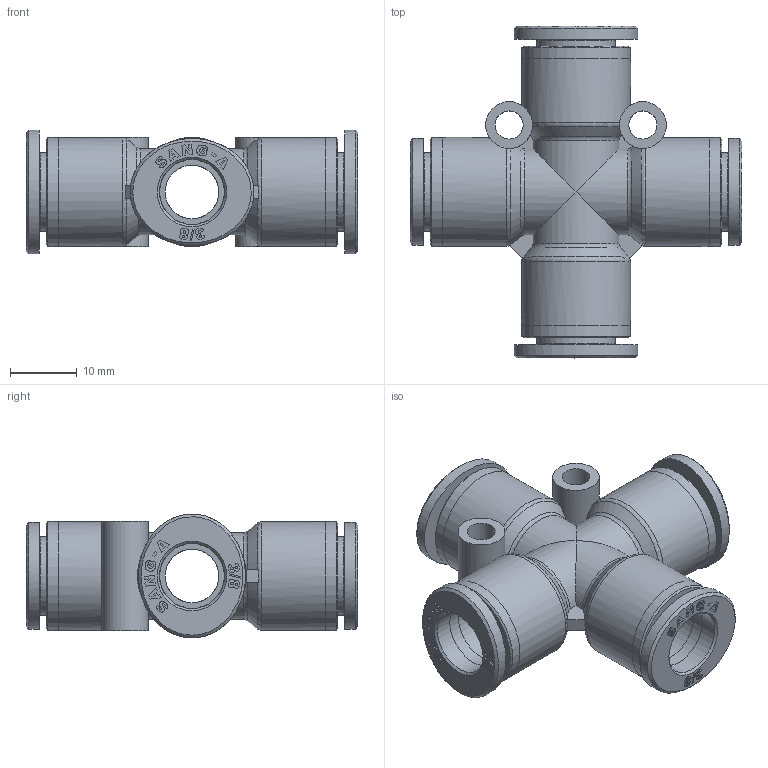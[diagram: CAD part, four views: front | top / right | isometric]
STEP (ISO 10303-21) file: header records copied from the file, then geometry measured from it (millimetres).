
FILE_DESCRIPTION((''),'2;1');
FILE_NAME('C:\Users\user0117\Desktop\김진일\홈페이지\3_8\Internet\GPZA 3_8.stp','2019-09-05T15:10:54',('user0117'),(''),'Autodesk Inventor 2013','Autodesk Inventor 2013','');
FILE_SCHEMA(('AUTOMOTIVE_DESIGN { 1 0 10303 214 1 1 1 1 }'));
Length unit declared in the file: millimetre
Products named in the file (5): GPZA 3_8; GPZA BODY 3-8(PLASTIC); G-COLLAR 3-8L; COLLAR G3-8L; SLEEVE G3-8
Assembly tree (7 placements, depth 3):
  GPZA 3_8
    GPZA BODY 3-8(PLASTIC)
    G-COLLAR 3-8L  x4
      COLLAR G3-8L
      SLEEVE G3-8
Bounding box: 49.6 x 49.6 x 18.49 mm (x, y, z)
Volume: 10450 mm3; surface area: 10587.1 mm2
Topology: 9 solids, 9 shells, 1345 faces, 3795 edges, 2527 vertices
Faces by surface type: plane 1106, bspline 148, cylinder 56, cone 24, torus 11
Full cylindrical faces by diameter (mm): 4.2 x2, 7 x2, 8 x4, 9.75 x12, 11.7 x4, 16.3 x8
Entity records: 12917 total; most frequent: CARTESIAN_POINT 3243, ORIENTED_EDGE 2084, DIRECTION 1726, EDGE_CURVE 1042, VECTOR 818, LINE 818, VERTEX_POINT 707, AXIS2_PLACEMENT_3D 454
